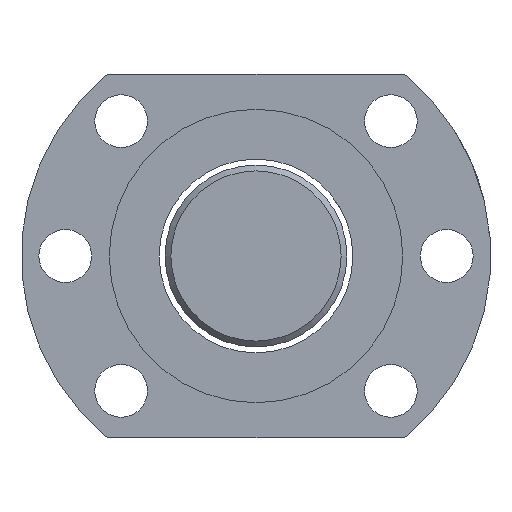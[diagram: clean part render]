
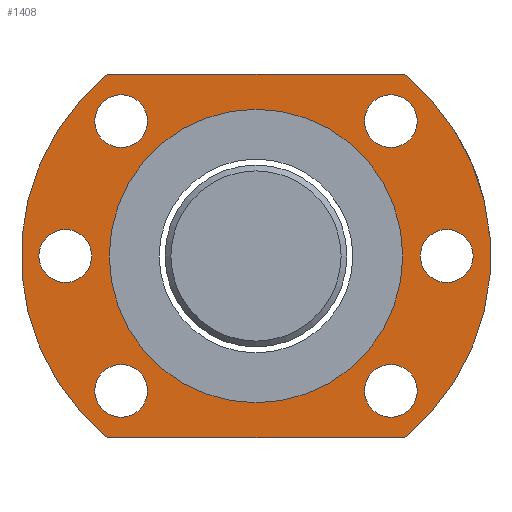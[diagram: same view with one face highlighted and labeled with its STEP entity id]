
A CAD part, left-side view. The second image highlights one B-rep face of the part: STEP entity #1408.
In plain terms, the highlighted planar face has unit normal (-1, 0, 0).
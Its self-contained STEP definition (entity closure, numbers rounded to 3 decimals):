
#14 = EDGE_LOOP ( 'NONE', ( #2274 ) ) ;
#28 = EDGE_LOOP ( 'NONE', ( #769 ) ) ;
#35 = VERTEX_POINT ( 'NONE', #647 ) ;
#40 = DIRECTION ( 'NONE',  ( -1., 0., 0. ) ) ;
#68 = VERTEX_POINT ( 'NONE', #774 ) ;
#99 = CARTESIAN_POINT ( 'NONE',  ( -36.659, 21.764, 7.674 ) ) ;
#111 = DIRECTION ( 'NONE',  ( -1., 0., 0. ) ) ;
#146 = EDGE_CURVE ( 'NONE', #1643, #68, #1358, .T. ) ;
#188 = AXIS2_PLACEMENT_3D ( 'NONE', #99, #509, #862 ) ;
#206 = CARTESIAN_POINT ( 'NONE',  ( -36.659, -10.736, -17.326 ) ) ;
#215 = FACE_BOUND ( 'NONE', #14, .T. ) ;
#226 = CARTESIAN_POINT ( 'NONE',  ( -36.659, -33.717, 30.655 ) ) ;
#235 = CIRCLE ( 'NONE', #1620, 4.5 ) ;
#236 = ORIENTED_EDGE ( 'NONE', *, *, #2410, .T. ) ;
#249 = DIRECTION ( 'NONE',  ( 0., 1., 0. ) ) ;
#270 = AXIS2_PLACEMENT_3D ( 'NONE', #1019, #404, #1000 ) ;
#314 = CIRCLE ( 'NONE', #2127, 25. ) ;
#353 = AXIS2_PLACEMENT_3D ( 'NONE', #2584, #750, #2189 ) ;
#404 = DIRECTION ( 'NONE',  ( -1., 0., 0. ) ) ;
#406 = VERTEX_POINT ( 'NONE', #426 ) ;
#419 = CARTESIAN_POINT ( 'NONE',  ( -36.659, -43.236, 7.674 ) ) ;
#426 = CARTESIAN_POINT ( 'NONE',  ( -36.659, -33.717, 35.155 ) ) ;
#449 = EDGE_CURVE ( 'NONE', #474, #1643, #2046, .T. ) ;
#452 = PLANE ( 'NONE',  #270 ) ;
#458 = DIRECTION ( 'NONE',  ( 0., 0., 1. ) ) ;
#472 = LINE ( 'NONE', #1655, #2559 ) ;
#474 = VERTEX_POINT ( 'NONE', #1431 ) ;
#492 = AXIS2_PLACEMENT_3D ( 'NONE', #2605, #1210, #2389 ) ;
#509 = DIRECTION ( 'NONE',  ( -1., 0., 0. ) ) ;
#513 = EDGE_CURVE ( 'NONE', #35, #35, #693, .T. ) ;
#606 = FACE_OUTER_BOUND ( 'NONE', #2008, .T. ) ;
#611 = VECTOR ( 'NONE', #249, 1000. ) ;
#617 = EDGE_CURVE ( 'NONE', #1021, #1021, #1735, .T. ) ;
#620 = CARTESIAN_POINT ( 'NONE',  ( -36.659, -43.236, 12.174 ) ) ;
#647 = CARTESIAN_POINT ( 'NONE',  ( -36.659, 12.245, 35.155 ) ) ;
#661 = CARTESIAN_POINT ( 'NONE',  ( -36.659, -33.717, -10.807 ) ) ;
#689 = DIRECTION ( 'NONE',  ( 1., 0., 0. ) ) ;
#693 = CIRCLE ( 'NONE', #1568, 4.5 ) ;
#717 = ORIENTED_EDGE ( 'NONE', *, *, #1818, .F. ) ;
#750 = DIRECTION ( 'NONE',  ( -1., 0., 0. ) ) ;
#769 = ORIENTED_EDGE ( 'NONE', *, *, #1602, .F. ) ;
#774 = CARTESIAN_POINT ( 'NONE',  ( -36.659, 14.543, -23.326 ) ) ;
#781 = EDGE_LOOP ( 'NONE', ( #1630 ) ) ;
#799 = FACE_BOUND ( 'NONE', #28, .T. ) ;
#806 = ORIENTED_EDGE ( 'NONE', *, *, #146, .T. ) ;
#811 = FACE_BOUND ( 'NONE', #1515, .T. ) ;
#819 = ORIENTED_EDGE ( 'NONE', *, *, #2522, .F. ) ;
#857 = ORIENTED_EDGE ( 'NONE', *, *, #2273, .T. ) ;
#862 = DIRECTION ( 'NONE',  ( 0., 0., 1. ) ) ;
#917 = DIRECTION ( 'NONE',  ( 0., 0., -1. ) ) ;
#1000 = DIRECTION ( 'NONE',  ( 0., 0., 1. ) ) ;
#1019 = CARTESIAN_POINT ( 'NONE',  ( -36.659, -10.736, 7.674 ) ) ;
#1021 = VERTEX_POINT ( 'NONE', #661 ) ;
#1032 = FACE_BOUND ( 'NONE', #781, .T. ) ;
#1045 = CARTESIAN_POINT ( 'NONE',  ( -36.659, -10.736, 7.674 ) ) ;
#1210 = DIRECTION ( 'NONE',  ( -1., 0., 0. ) ) ;
#1225 = DIRECTION ( 'NONE',  ( -1., 0., 0. ) ) ;
#1228 = VERTEX_POINT ( 'NONE', #206 ) ;
#1259 = CARTESIAN_POINT ( 'NONE',  ( -36.659, 12.245, 30.655 ) ) ;
#1328 = EDGE_CURVE ( 'NONE', #406, #406, #2252, .T. ) ;
#1358 = CIRCLE ( 'NONE', #353, 40. ) ;
#1383 = VERTEX_POINT ( 'NONE', #1611 ) ;
#1399 = FACE_BOUND ( 'NONE', #1473, .T. ) ;
#1408 = ADVANCED_FACE ( 'NONE', ( #1415, #799, #606, #1399, #1032, #2263, #215, #811 ), #452, .T. ) ;
#1409 = ORIENTED_EDGE ( 'NONE', *, *, #1328, .T. ) ;
#1411 = AXIS2_PLACEMENT_3D ( 'NONE', #1920, #111, #917 ) ;
#1415 = FACE_BOUND ( 'NONE', #2260, .T. ) ;
#1431 = CARTESIAN_POINT ( 'NONE',  ( -36.659, -36.014, 38.674 ) ) ;
#1473 = EDGE_LOOP ( 'NONE', ( #717 ) ) ;
#1515 = EDGE_LOOP ( 'NONE', ( #1409 ) ) ;
#1568 = AXIS2_PLACEMENT_3D ( 'NONE', #1259, #40, #1629 ) ;
#1602 = EDGE_CURVE ( 'NONE', #1228, #1228, #314, .T. ) ;
#1611 = CARTESIAN_POINT ( 'NONE',  ( -36.659, -36.014, -23.326 ) ) ;
#1620 = AXIS2_PLACEMENT_3D ( 'NONE', #419, #689, #458 ) ;
#1629 = DIRECTION ( 'NONE',  ( 0., 0., 1. ) ) ;
#1630 = ORIENTED_EDGE ( 'NONE', *, *, #513, .F. ) ;
#1643 = VERTEX_POINT ( 'NONE', #2476 ) ;
#1646 = DIRECTION ( 'NONE',  ( 0., 0., 1. ) ) ;
#1654 = CIRCLE ( 'NONE', #188, 4.5 ) ;
#1655 = CARTESIAN_POINT ( 'NONE',  ( -36.659, 14.543, -23.326 ) ) ;
#1670 = ORIENTED_EDGE ( 'NONE', *, *, #2357, .T. ) ;
#1689 = VERTEX_POINT ( 'NONE', #2068 ) ;
#1735 = CIRCLE ( 'NONE', #1824, 4.5 ) ;
#1736 = AXIS2_PLACEMENT_3D ( 'NONE', #226, #2451, #1646 ) ;
#1818 = EDGE_CURVE ( 'NONE', #2069, #2069, #1654, .T. ) ;
#1824 = AXIS2_PLACEMENT_3D ( 'NONE', #2446, #2485, #2287 ) ;
#1826 = CARTESIAN_POINT ( 'NONE',  ( -36.659, 21.764, 12.174 ) ) ;
#1845 = CARTESIAN_POINT ( 'NONE',  ( -36.659, -36.014, 38.674 ) ) ;
#1920 = CARTESIAN_POINT ( 'NONE',  ( -36.659, -10.736, 7.674 ) ) ;
#1927 = CIRCLE ( 'NONE', #1411, 40. ) ;
#1943 = EDGE_LOOP ( 'NONE', ( #819 ) ) ;
#2008 = EDGE_LOOP ( 'NONE', ( #806, #857, #236, #2154 ) ) ;
#2046 = LINE ( 'NONE', #1845, #611 ) ;
#2068 = CARTESIAN_POINT ( 'NONE',  ( -36.659, 12.245, -10.807 ) ) ;
#2069 = VERTEX_POINT ( 'NONE', #1826 ) ;
#2127 = AXIS2_PLACEMENT_3D ( 'NONE', #1045, #1225, #2250 ) ;
#2154 = ORIENTED_EDGE ( 'NONE', *, *, #449, .T. ) ;
#2189 = DIRECTION ( 'NONE',  ( 0., 0., -1. ) ) ;
#2250 = DIRECTION ( 'NONE',  ( 0., 0., -1. ) ) ;
#2252 = CIRCLE ( 'NONE', #1736, 4.5 ) ;
#2258 = DIRECTION ( 'NONE',  ( 0., -1., 0. ) ) ;
#2260 = EDGE_LOOP ( 'NONE', ( #1670 ) ) ;
#2263 = FACE_BOUND ( 'NONE', #1943, .T. ) ;
#2273 = EDGE_CURVE ( 'NONE', #68, #1383, #472, .T. ) ;
#2274 = ORIENTED_EDGE ( 'NONE', *, *, #617, .T. ) ;
#2287 = DIRECTION ( 'NONE',  ( 0., 0., 1. ) ) ;
#2357 = EDGE_CURVE ( 'NONE', #2429, #2429, #235, .T. ) ;
#2389 = DIRECTION ( 'NONE',  ( 0., 0., 1. ) ) ;
#2410 = EDGE_CURVE ( 'NONE', #1383, #474, #1927, .T. ) ;
#2429 = VERTEX_POINT ( 'NONE', #620 ) ;
#2446 = CARTESIAN_POINT ( 'NONE',  ( -36.659, -33.717, -15.307 ) ) ;
#2451 = DIRECTION ( 'NONE',  ( 1., 0., 0. ) ) ;
#2476 = CARTESIAN_POINT ( 'NONE',  ( -36.659, 14.543, 38.674 ) ) ;
#2485 = DIRECTION ( 'NONE',  ( 1., 0., 0. ) ) ;
#2518 = CIRCLE ( 'NONE', #492, 4.5 ) ;
#2522 = EDGE_CURVE ( 'NONE', #1689, #1689, #2518, .T. ) ;
#2559 = VECTOR ( 'NONE', #2258, 1000. ) ;
#2584 = CARTESIAN_POINT ( 'NONE',  ( -36.659, -10.736, 7.674 ) ) ;
#2605 = CARTESIAN_POINT ( 'NONE',  ( -36.659, 12.245, -15.307 ) ) ;
